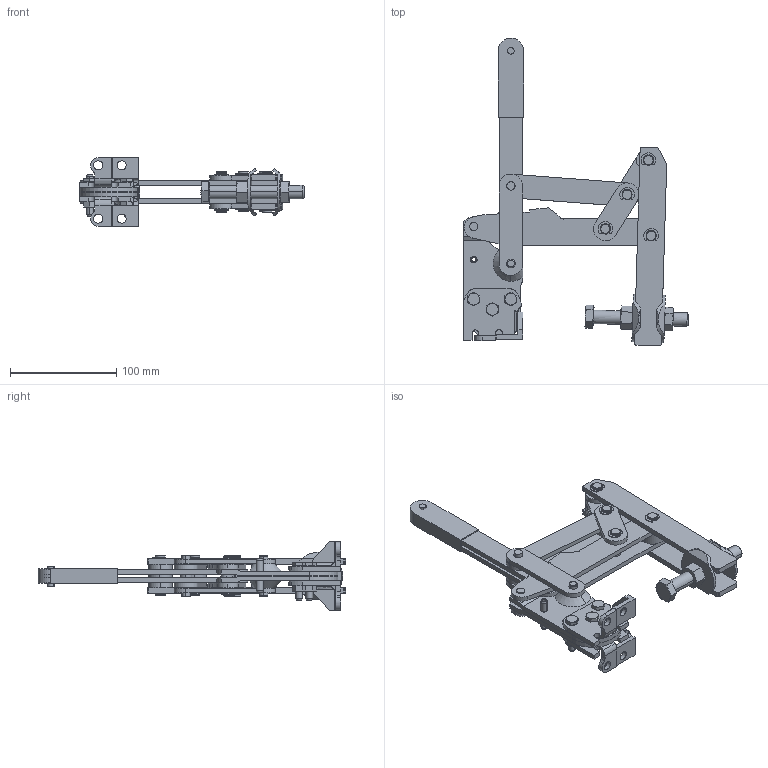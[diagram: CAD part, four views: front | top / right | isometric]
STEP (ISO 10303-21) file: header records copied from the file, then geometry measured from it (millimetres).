
FILE_DESCRIPTION((''),'2;1');
FILE_NAME('C:\1a1-lapeer-mfg\v800\step\DTSB-800.stp','2006-01-19T19:48:24',('rtaylor'),(''),'Autodesk Inventor 9','Autodesk Inventor 9','');
FILE_SCHEMA(('AUTOMOTIVE_DESIGN { 1 0 10303 214 1 1 1 1 }'));
Length unit declared in the file: inch
Products named in the file (29): DTSB-800; 150019; 100004; 150024; 150062; 150063; 130024; 102014; 150010; 110014RL; 130007; 130041; 160029; W-470078; 170078; 170074-CT; 170073-CT; 171034; 171040; 171041; 171042; 150091;  Part 2 - Inch 252PS; 120005L; 120005R; 121033L; 121033R; 4-20 UNC - 1; 4 - 20
Assembly tree (54 placements, depth 3):
  DTSB-800
    150019  x2
    100004  x2
    150024
    150062
    150063
    130024  x2
    102014
    150010
    110014RL  x2
    130007  x4
    130041  x2
    160029  x2
    W-470078
      170078
      170074-CT
      170073-CT
      171034  x2
    171040  x2
    171041  x2
    171042
    150091  x4
     Part 2 - Inch 252PS  x8
    120005L
    120005R
    121033L
    121033R
    4-20 UNC - 1  x3
    4 - 20  x3
Bounding box: 211.37 x 289.27 x 64.72 mm (x, y, z)
Volume: 325367.9 mm3; surface area: 192176.8 mm2
Topology: 53 solids, 53 shells, 1111 faces, 2752 edges, 1786 vertices
Faces by surface type: cylinder 451, plane 349, cone 166, bspline 141, torus 4
Entity records: 20798 total; most frequent: CARTESIAN_POINT 5481, DIRECTION 3176, ORIENTED_EDGE 2988, EDGE_CURVE 1494, AXIS2_PLACEMENT_3D 1261, VERTEX_POINT 964, EDGE_LOOP 716, CIRCLE 670
